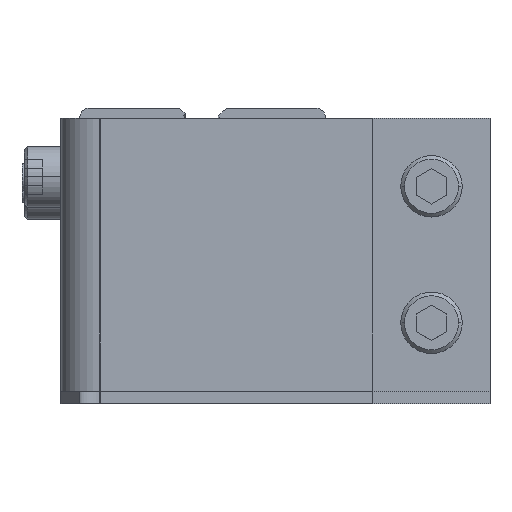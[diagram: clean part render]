
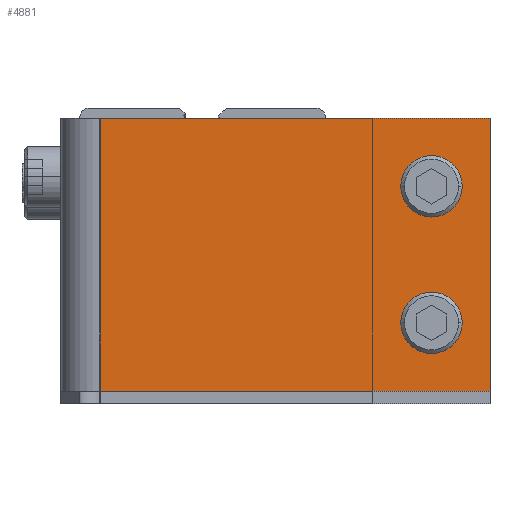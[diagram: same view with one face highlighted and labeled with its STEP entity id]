
A CAD part, top view. The second image highlights one B-rep face of the part: STEP entity #4881.
In plain terms, the highlighted planar face has unit normal (0, 0, 1) as drawn and (1, 0, 0) by its records, which use the part's own axes.
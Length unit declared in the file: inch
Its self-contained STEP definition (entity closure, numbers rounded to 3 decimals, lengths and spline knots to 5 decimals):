
#3484=DIRECTION('',(0.,-1.,0.));
#3485=VECTOR('',#3484,2.5);
#3486=CARTESIAN_POINT('',(0.,-0.25,-0.875));
#3487=LINE('',#3486,#3485);
#3488=DIRECTION('',(0.,0.,1.));
#3489=VECTOR('',#3488,1.75);
#3490=CARTESIAN_POINT('',(0.,-2.75,-0.875));
#3491=LINE('',#3490,#3489);
#3492=DIRECTION('',(0.,1.,0.));
#3493=VECTOR('',#3492,2.5);
#3494=CARTESIAN_POINT('',(0.,-2.75,0.875));
#3495=LINE('',#3494,#3493);
#3496=CARTESIAN_POINT('',(0.,-2.375,0.437));
#3497=DIRECTION('',(1.,0.,0.));
#3498=DIRECTION('',(0.,1.,0.));
#3499=AXIS2_PLACEMENT_3D('',#3496,#3497,#3498);
#3501=CARTESIAN_POINT('',(0.,-2.375,0.437));
#3502=DIRECTION('',(1.,0.,0.));
#3503=DIRECTION('',(0.,-1.,0.));
#3504=AXIS2_PLACEMENT_3D('',#3501,#3502,#3503);
#3506=CARTESIAN_POINT('',(0.,-2.375,-0.438));
#3507=DIRECTION('',(1.,0.,0.));
#3508=DIRECTION('',(0.,1.,0.));
#3509=AXIS2_PLACEMENT_3D('',#3506,#3507,#3508);
#3511=CARTESIAN_POINT('',(0.,-2.375,-0.438));
#3512=DIRECTION('',(1.,0.,0.));
#3513=DIRECTION('',(0.,-1.,0.));
#3514=AXIS2_PLACEMENT_3D('',#3511,#3512,#3513);
#3516=DIRECTION('',(0.,0.,1.));
#3517=VECTOR('',#3516,1.75);
#3518=CARTESIAN_POINT('',(0.,-0.25,-0.875));
#3519=LINE('',#3518,#3517);
#4238=CARTESIAN_POINT('',(0.,-2.75,-0.875));
#4240=VERTEX_POINT('',#4238);
#4242=CARTESIAN_POINT('',(0.,-0.25,-0.875));
#4243=VERTEX_POINT('',#4242);
#4259=CARTESIAN_POINT('',(0.,-2.75,0.875));
#4261=VERTEX_POINT('',#4259);
#4270=CARTESIAN_POINT('',(0.,-0.25,0.875));
#4271=VERTEX_POINT('',#4270);
#4488=CARTESIAN_POINT('',(0.,-2.17815,0.437));
#4489=CARTESIAN_POINT('',(0.,-2.57185,0.437));
#4490=VERTEX_POINT('',#4488);
#4491=VERTEX_POINT('',#4489);
#4492=CARTESIAN_POINT('',(0.,-2.17815,-0.438));
#4493=CARTESIAN_POINT('',(0.,-2.57185,-0.438));
#4494=VERTEX_POINT('',#4492);
#4495=VERTEX_POINT('',#4493);
#4857=CARTESIAN_POINT('',(0.,-1.5,0.));
#4858=DIRECTION('',(1.,0.,0.));
#4859=DIRECTION('',(0.,1.,0.));
#4860=AXIS2_PLACEMENT_3D('',#4857,#4858,#4859);
#4861=PLANE('',#4860);
#4862=ORIENTED_EDGE('',*,*,#4529,.T.);
#4863=ORIENTED_EDGE('',*,*,#4608,.T.);
#4864=ORIENTED_EDGE('',*,*,#4594,.T.);
#4866=ORIENTED_EDGE('',*,*,#4865,.F.);
#4867=EDGE_LOOP('',(#4862,#4863,#4864,#4866));
#4868=FACE_OUTER_BOUND('',#4867,.F.);
#4870=ORIENTED_EDGE('',*,*,#4869,.T.);
#4872=ORIENTED_EDGE('',*,*,#4871,.T.);
#4873=EDGE_LOOP('',(#4870,#4872));
#4874=FACE_BOUND('',#4873,.F.);
#4876=ORIENTED_EDGE('',*,*,#4875,.T.);
#4878=ORIENTED_EDGE('',*,*,#4877,.T.);
#4879=EDGE_LOOP('',(#4876,#4878));
#4880=FACE_BOUND('',#4879,.F.);
#3500=CIRCLE('',#3499,0.19685);
#3505=CIRCLE('',#3504,0.19685);
#3510=CIRCLE('',#3509,0.19685);
#3515=CIRCLE('',#3514,0.19685);
#4529=EDGE_CURVE('',#4243,#4240,#3487,.T.);
#4594=EDGE_CURVE('',#4261,#4271,#3495,.T.);
#4608=EDGE_CURVE('',#4240,#4261,#3491,.T.);
#4865=EDGE_CURVE('',#4243,#4271,#3519,.T.);
#4869=EDGE_CURVE('',#4490,#4491,#3500,.T.);
#4871=EDGE_CURVE('',#4491,#4490,#3505,.T.);
#4875=EDGE_CURVE('',#4494,#4495,#3510,.T.);
#4877=EDGE_CURVE('',#4495,#4494,#3515,.T.);
#4881=ADVANCED_FACE('',(#4868,#4874,#4880),#4861,.T.);
